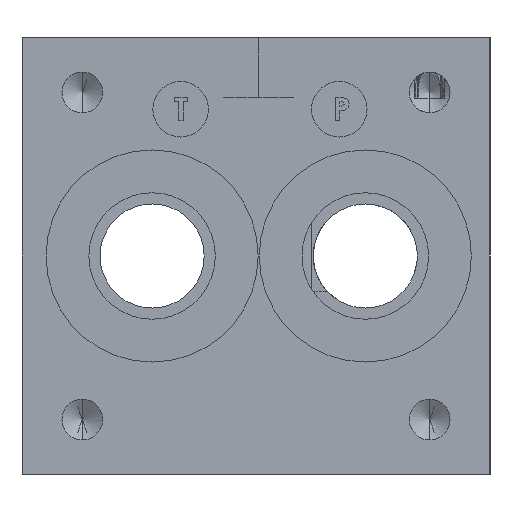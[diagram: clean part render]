
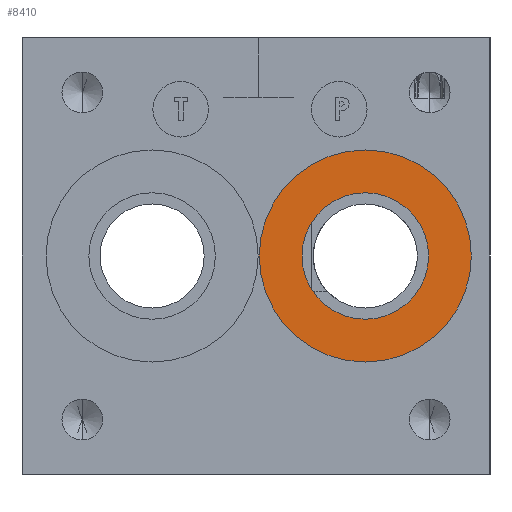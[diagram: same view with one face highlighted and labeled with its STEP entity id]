
A CAD part, left-side view. The second image highlights one B-rep face of the part: STEP entity #8410.
In plain terms, the highlighted planar face has unit normal (-1, 0, 0).
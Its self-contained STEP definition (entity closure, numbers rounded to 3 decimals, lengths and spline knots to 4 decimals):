
#7 = CIRCLE ( 'NONE', #30435, 0.6684 ) ;
#234 = CARTESIAN_POINT ( 'NONE',  ( 0.031, 0.786, 0.9761 ) ) ;
#2584 = CARTESIAN_POINT ( 'NONE',  ( 0.031, 0.786, 0.7066 ) ) ;
#7186 = PLANE ( 'NONE',  #15153 ) ;
#8410 = ADVANCED_FACE ( 'NONE', ( #25938, #44307 ), #7186, .F. ) ;
#9033 = DIRECTION ( 'NONE',  ( -1., 0., 0. ) ) ;
#10703 = DIRECTION ( 'NONE',  ( 0., 0., -1. ) ) ;
#11632 = CARTESIAN_POINT ( 'NONE',  ( 0.031, 0.786, 1.375 ) ) ;
#14440 = EDGE_CURVE ( 'NONE', #16263, #27695, #7, .T. ) ;
#15144 = DIRECTION ( 'NONE',  ( 0., 0., 1. ) ) ;
#15153 = AXIS2_PLACEMENT_3D ( 'NONE', #38300, #31511, #10703 ) ;
#15865 = CARTESIAN_POINT ( 'NONE',  ( 0.031, 0.786, 1.7738 ) ) ;
#16263 = VERTEX_POINT ( 'NONE', #2584 ) ;
#16698 = ORIENTED_EDGE ( 'NONE', *, *, #43673, .F. ) ;
#16909 = DIRECTION ( 'NONE',  ( -1., 0., 0. ) ) ;
#17282 = ORIENTED_EDGE ( 'NONE', *, *, #27790, .T. ) ;
#19564 = DIRECTION ( 'NONE',  ( -1., 0., 0. ) ) ;
#20472 = EDGE_LOOP ( 'NONE', ( #32394, #16698 ) ) ;
#21057 = EDGE_LOOP ( 'NONE', ( #17282, #36233 ) ) ;
#22629 = CIRCLE ( 'NONE', #42245, 0.3989 ) ;
#25545 = CARTESIAN_POINT ( 'NONE',  ( 0.031, 0.786, 2.0434 ) ) ;
#25938 = FACE_BOUND ( 'NONE', #20472, .T. ) ;
#26776 = AXIS2_PLACEMENT_3D ( 'NONE', #29852, #9033, #33334 ) ;
#27695 = VERTEX_POINT ( 'NONE', #25545 ) ;
#27790 = EDGE_CURVE ( 'NONE', #27695, #16263, #39607, .T. ) ;
#28146 = AXIS2_PLACEMENT_3D ( 'NONE', #11632, #35881, #15144 ) ;
#28302 = VERTEX_POINT ( 'NONE', #15865 ) ;
#29852 = CARTESIAN_POINT ( 'NONE',  ( 0.031, 0.786, 1.375 ) ) ;
#30435 = AXIS2_PLACEMENT_3D ( 'NONE', #40254, #19564, #43759 ) ;
#31511 = DIRECTION ( 'NONE',  ( 1., 0., 0. ) ) ;
#32394 = ORIENTED_EDGE ( 'NONE', *, *, #37010, .F. ) ;
#33334 = DIRECTION ( 'NONE',  ( 0., 0., 1. ) ) ;
#35881 = DIRECTION ( 'NONE',  ( -1., 0., 0. ) ) ;
#36233 = ORIENTED_EDGE ( 'NONE', *, *, #14440, .T. ) ;
#37010 = EDGE_CURVE ( 'NONE', #28302, #41753, #38036, .T. ) ;
#37630 = CARTESIAN_POINT ( 'NONE',  ( 0.031, 0.786, 1.375 ) ) ;
#38036 = CIRCLE ( 'NONE', #28146, 0.3989 ) ;
#38300 = CARTESIAN_POINT ( 'NONE',  ( 0.031, 0.786, 1.375 ) ) ;
#39607 = CIRCLE ( 'NONE', #26776, 0.6684 ) ;
#40254 = CARTESIAN_POINT ( 'NONE',  ( 0.031, 0.786, 1.375 ) ) ;
#41097 = DIRECTION ( 'NONE',  ( 0., 0., 1. ) ) ;
#41753 = VERTEX_POINT ( 'NONE', #234 ) ;
#42245 = AXIS2_PLACEMENT_3D ( 'NONE', #37630, #16909, #41097 ) ;
#43673 = EDGE_CURVE ( 'NONE', #41753, #28302, #22629, .T. ) ;
#43759 = DIRECTION ( 'NONE',  ( 0., 0., 1. ) ) ;
#44307 = FACE_OUTER_BOUND ( 'NONE', #21057, .T. ) ;
